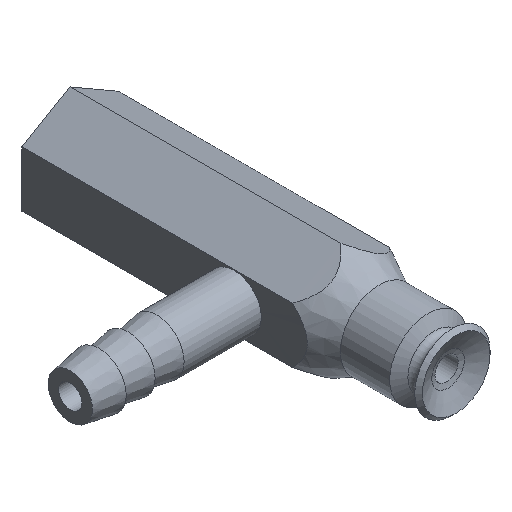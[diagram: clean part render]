
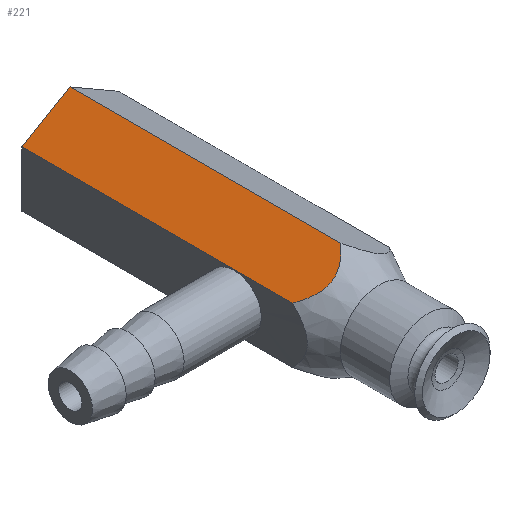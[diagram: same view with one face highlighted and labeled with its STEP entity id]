
A CAD part, isometric view. The second image highlights one B-rep face of the part: STEP entity #221.
In plain terms, the highlighted planar face has unit normal (-0.5, 0, 0.866).
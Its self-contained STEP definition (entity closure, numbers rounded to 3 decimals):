
#221=ADVANCED_FACE('',(#286),#287,.F.);
#286=FACE_OUTER_BOUND('',#419,.T.);
#287=PLANE('',#420);
#419=EDGE_LOOP('',(#619,#620,#621,#622));
#420=AXIS2_PLACEMENT_3D('',#623,#624,#625);
#619=ORIENTED_EDGE('',*,*,#836,.F.);
#620=ORIENTED_EDGE('',*,*,#837,.F.);
#621=ORIENTED_EDGE('',*,*,#819,.T.);
#622=ORIENTED_EDGE('',*,*,#812,.F.);
#623=CARTESIAN_POINT('',(-2.5,16.0,1.443));
#624=DIRECTION('',(0.5,0.0,-0.866));
#625=DIRECTION('',(0.0,-1.0,0.0));
#812=EDGE_CURVE('',#872,#873,#874,.T.);
#819=EDGE_CURVE('',#886,#873,#887,.T.);
#836=EDGE_CURVE('',#915,#872,#916,.T.);
#837=EDGE_CURVE('',#886,#915,#917,.T.);
#872=VERTEX_POINT('',#983);
#873=VERTEX_POINT('',#984);
#874=B_SPLINE_CURVE_WITH_KNOTS('',3,(#985,#986,#987,#988,#989,#990,#991,#992,#993,#994,#995,#996,#997),.UNSPECIFIED.,.F.,.F.,(4,1,1,1,1,1,1,1,1,1,4),(0.0,0.069,0.133,0.193,0.249,0.381,0.5,0.618,0.749,0.866,1.0),.UNSPECIFIED.);
#886=VERTEX_POINT('',#1069);
#887=LINE('',#1070,#1071);
#915=VERTEX_POINT('',#1105);
#916=LINE('',#1106,#1107);
#917=LINE('',#1108,#1109);
#983=CARTESIAN_POINT('',(0.0,1.974,2.887));
#984=CARTESIAN_POINT('',(-2.5,1.974,1.443));
#985=CARTESIAN_POINT('',(0.,1.974,2.887));
#986=CARTESIAN_POINT('',(-0.048,1.921,2.859));
#987=CARTESIAN_POINT('',(-0.141,1.818,2.805));
#988=CARTESIAN_POINT('',(-0.283,1.679,2.723));
#989=CARTESIAN_POINT('',(-0.421,1.558,2.643));
#990=CARTESIAN_POINT('',(-0.622,1.409,2.528));
#991=CARTESIAN_POINT('',(-0.892,1.262,2.372));
#992=CARTESIAN_POINT('',(-1.248,1.193,2.166));
#993=CARTESIAN_POINT('',(-1.605,1.26,1.96));
#994=CARTESIAN_POINT('',(-1.927,1.436,1.774));
#995=CARTESIAN_POINT('',(-2.229,1.68,1.599));
#996=CARTESIAN_POINT('',(-2.406,1.872,1.498));
#997=CARTESIAN_POINT('',(-2.5,1.974,1.443));
#1069=CARTESIAN_POINT('',(-2.5,16.0,1.443));
#1070=CARTESIAN_POINT('',(-2.5,16.0,1.443));
#1071=VECTOR('',#1181,1.0);
#1105=CARTESIAN_POINT('',(0.0,16.0,2.887));
#1106=CARTESIAN_POINT('',(0.0,16.0,2.887));
#1107=VECTOR('',#1215,1.0);
#1108=CARTESIAN_POINT('',(-2.5,16.0,1.443));
#1109=VECTOR('',#1216,1.0);
#1181=DIRECTION('',(0.0,-1.0,0.0));
#1215=DIRECTION('',(0.0,-1.0,0.0));
#1216=DIRECTION('',(0.866,0.0,0.5));
